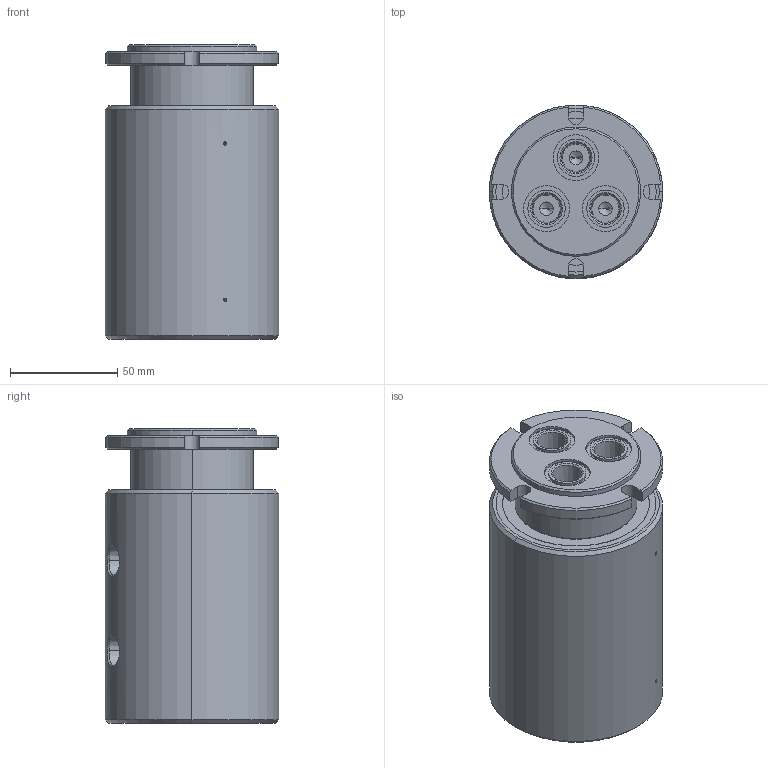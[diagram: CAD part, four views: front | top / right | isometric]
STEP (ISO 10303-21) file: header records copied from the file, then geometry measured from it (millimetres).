
FILE_DESCRIPTION (( 'STEP AP214' ), '1' );
FILE_NAME ('GP(M)-230.STEP', '2013-02-05T22:21:03', ( '' ), ( '' ), 'SwSTEP 2.0', 'SolidWorks 2011', '' );
FILE_SCHEMA (( 'AUTOMOTIVE_DESIGN' ));
Length unit declared in the file: inch
Products named in the file (1): GP(M)-230
Bounding box: 80.98 x 80.98 x 137.54 mm (x, y, z)
Volume: 624795 mm3; surface area: 55920.1 mm2
Topology: 1 solids, 1 shells, 180 faces, 424 edges, 258 vertices
Faces by surface type: cylinder 77, cone 56, plane 39, bspline 6, torus 2
Entity records: 6121 total; most frequent: CARTESIAN_POINT 1684, DIRECTION 900, ORIENTED_EDGE 800, EDGE_CURVE 400, AXIS2_PLACEMENT_3D 369, VERTEX_POINT 258, EDGE_LOOP 216, CIRCLE 194
